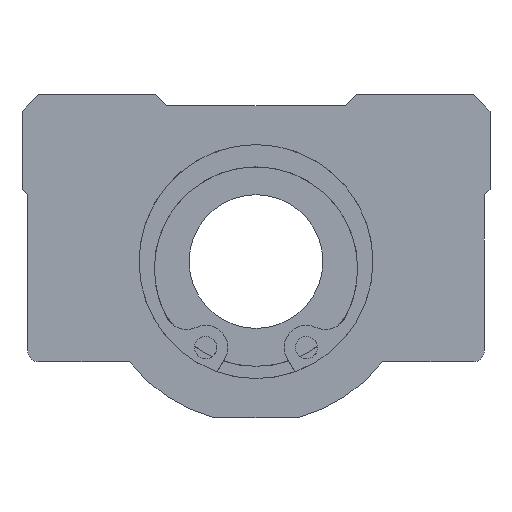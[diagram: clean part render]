
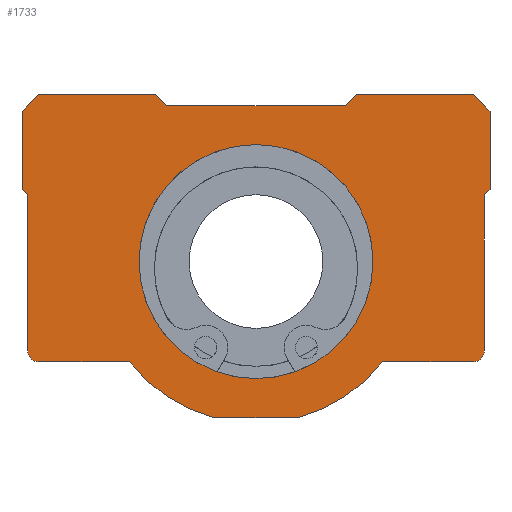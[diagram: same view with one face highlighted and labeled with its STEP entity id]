
A CAD part, left-side view. The second image highlights one B-rep face of the part: STEP entity #1733.
In plain terms, the highlighted planar face has unit normal (-1, 0, 0).
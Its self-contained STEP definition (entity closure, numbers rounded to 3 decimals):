
#1185=CARTESIAN_POINT('',(0.0,10.5,0.));
#1186=VERTEX_POINT('',#1185);
#1187=CARTESIAN_POINT('',(0.0,0.0,0.0));
#1188=DIRECTION('',(1.0,0.0,0.0));
#1189=DIRECTION('',(0.0,-1.0,0.0));
#1190=AXIS2_PLACEMENT_3D('',#1187,#1188,#1189);
#1191=CIRCLE('',#1190,10.5);
#1192=EDGE_CURVE('',#1186,#1186,#1191,.T.);
#1309=CARTESIAN_POINT('',(0.0,19.5,-9.));
#1310=VERTEX_POINT('',#1309);
#1317=CARTESIAN_POINT('',(0.0,20.5,-8.));
#1318=VERTEX_POINT('',#1317);
#1319=CARTESIAN_POINT('',(0.0,19.5,-8.));
#1320=DIRECTION('',(1.0,0.0,0.0));
#1321=DIRECTION('',(0.0,0.707,-0.707));
#1322=AXIS2_PLACEMENT_3D('',#1319,#1320,#1321);
#1323=CIRCLE('',#1322,1.0);
#1324=EDGE_CURVE('',#1310,#1318,#1323,.T.);
#1349=CARTESIAN_POINT('',(0.0,11.369,-9.));
#1350=VERTEX_POINT('',#1349);
#1357=CARTESIAN_POINT('',(0.0,11.369,-9.));
#1358=DIRECTION('',(0.0,1.0,0.0));
#1359=VECTOR('',#1358,8.131);
#1360=LINE('',#1357,#1359);
#1361=EDGE_CURVE('',#1350,#1310,#1360,.T.);
#1560=CARTESIAN_POINT('',(0.0,-20.5,-8.));
#1561=VERTEX_POINT('',#1560);
#1568=CARTESIAN_POINT('',(0.0,-19.5,-9.));
#1569=VERTEX_POINT('',#1568);
#1570=CARTESIAN_POINT('',(0.0,-19.5,-8.));
#1571=DIRECTION('',(1.0,0.0,0.0));
#1572=DIRECTION('',(0.0,-0.707,-0.707));
#1573=AXIS2_PLACEMENT_3D('',#1570,#1571,#1572);
#1574=CIRCLE('',#1573,1.);
#1575=EDGE_CURVE('',#1561,#1569,#1574,.T.);
#1586=CARTESIAN_POINT('',(0.0,0.,1.65));
#1587=DIRECTION('',(1.0,0.0,0.0));
#1588=DIRECTION('',(0.0,0.0,-1.0));
#1589=AXIS2_PLACEMENT_3D('',#1586,#1587,#1588);
#1590=PLANE('',#1589);
#1591=ORIENTED_EDGE('',*,*,#1324,.F.);
#1592=ORIENTED_EDGE('',*,*,#1361,.F.);
#1593=CARTESIAN_POINT('',(0.0,3.775,-14.));
#1594=VERTEX_POINT('',#1593);
#1595=CARTESIAN_POINT('',(0.0,0.0,0.0));
#1596=DIRECTION('',(1.0,0.0,0.0));
#1597=DIRECTION('',(0.0,0.26,-0.966));
#1598=AXIS2_PLACEMENT_3D('',#1595,#1596,#1597);
#1599=CIRCLE('',#1598,14.5);
#1600=EDGE_CURVE('',#1594,#1350,#1599,.T.);
#1601=ORIENTED_EDGE('',*,*,#1600,.F.);
#1602=CARTESIAN_POINT('',(0.0,-3.775,-14.));
#1603=VERTEX_POINT('',#1602);
#1604=CARTESIAN_POINT('',(0.0,-3.775,-14.));
#1605=DIRECTION('',(0.0,1.0,0.0));
#1606=VECTOR('',#1605,7.55);
#1607=LINE('',#1604,#1606);
#1608=EDGE_CURVE('',#1603,#1594,#1607,.T.);
#1609=ORIENTED_EDGE('',*,*,#1608,.F.);
#1610=CARTESIAN_POINT('',(0.0,-11.369,-9.));
#1611=VERTEX_POINT('',#1610);
#1612=CARTESIAN_POINT('',(0.0,0.0,0.0));
#1613=DIRECTION('',(1.0,0.0,0.0));
#1614=DIRECTION('',(0.0,0.26,-0.966));
#1615=AXIS2_PLACEMENT_3D('',#1612,#1613,#1614);
#1616=CIRCLE('',#1615,14.5);
#1617=EDGE_CURVE('',#1611,#1603,#1616,.T.);
#1618=ORIENTED_EDGE('',*,*,#1617,.F.);
#1619=CARTESIAN_POINT('',(0.0,-19.5,-9.));
#1620=DIRECTION('',(0.0,1.0,0.0));
#1621=VECTOR('',#1620,8.131);
#1622=LINE('',#1619,#1621);
#1623=EDGE_CURVE('',#1569,#1611,#1622,.T.);
#1624=ORIENTED_EDGE('',*,*,#1623,.F.);
#1625=ORIENTED_EDGE('',*,*,#1575,.F.);
#1626=CARTESIAN_POINT('',(0.0,-20.5,6.));
#1627=VERTEX_POINT('',#1626);
#1628=CARTESIAN_POINT('',(0.0,-20.5,6.));
#1629=DIRECTION('',(0.0,0.0,-1.0));
#1630=VECTOR('',#1629,14.0);
#1631=LINE('',#1628,#1630);
#1632=EDGE_CURVE('',#1627,#1561,#1631,.T.);
#1633=ORIENTED_EDGE('',*,*,#1632,.F.);
#1634=CARTESIAN_POINT('',(0.0,-21.,6.5));
#1635=VERTEX_POINT('',#1634);
#1636=CARTESIAN_POINT('',(0.0,-21.,6.5));
#1637=DIRECTION('',(0.0,0.707,-0.707));
#1638=VECTOR('',#1637,0.707);
#1639=LINE('',#1636,#1638);
#1640=EDGE_CURVE('',#1635,#1627,#1639,.T.);
#1641=ORIENTED_EDGE('',*,*,#1640,.F.);
#1642=CARTESIAN_POINT('',(0.0,-21.,13.5));
#1643=VERTEX_POINT('',#1642);
#1644=CARTESIAN_POINT('',(0.0,-21.,13.5));
#1645=DIRECTION('',(0.0,0.0,-1.0));
#1646=VECTOR('',#1645,7.);
#1647=LINE('',#1644,#1646);
#1648=EDGE_CURVE('',#1643,#1635,#1647,.T.);
#1649=ORIENTED_EDGE('',*,*,#1648,.F.);
#1650=CARTESIAN_POINT('',(0.0,-19.5,15.));
#1651=VERTEX_POINT('',#1650);
#1652=CARTESIAN_POINT('',(0.0,-19.5,15.));
#1653=DIRECTION('',(0.0,-0.707,-0.707));
#1654=VECTOR('',#1653,2.121);
#1655=LINE('',#1652,#1654);
#1656=EDGE_CURVE('',#1651,#1643,#1655,.T.);
#1657=ORIENTED_EDGE('',*,*,#1656,.F.);
#1658=CARTESIAN_POINT('',(0.0,-9.0,15.));
#1659=VERTEX_POINT('',#1658);
#1660=CARTESIAN_POINT('',(0.0,-9.0,15.));
#1661=DIRECTION('',(0.0,-1.0,0.0));
#1662=VECTOR('',#1661,10.5);
#1663=LINE('',#1660,#1662);
#1664=EDGE_CURVE('',#1659,#1651,#1663,.T.);
#1665=ORIENTED_EDGE('',*,*,#1664,.F.);
#1666=CARTESIAN_POINT('',(0.0,-8.,14.));
#1667=VERTEX_POINT('',#1666);
#1668=CARTESIAN_POINT('',(0.0,-8.,14.));
#1669=DIRECTION('',(0.0,-0.707,0.707));
#1670=VECTOR('',#1669,1.414);
#1671=LINE('',#1668,#1670);
#1672=EDGE_CURVE('',#1667,#1659,#1671,.T.);
#1673=ORIENTED_EDGE('',*,*,#1672,.F.);
#1674=CARTESIAN_POINT('',(0.0,8.,14.));
#1675=VERTEX_POINT('',#1674);
#1676=CARTESIAN_POINT('',(0.0,8.,14.));
#1677=DIRECTION('',(0.0,-1.0,0.0));
#1678=VECTOR('',#1677,16.);
#1679=LINE('',#1676,#1678);
#1680=EDGE_CURVE('',#1675,#1667,#1679,.T.);
#1681=ORIENTED_EDGE('',*,*,#1680,.F.);
#1682=CARTESIAN_POINT('',(0.0,9.0,15.));
#1683=VERTEX_POINT('',#1682);
#1684=CARTESIAN_POINT('',(0.0,9.0,15.));
#1685=DIRECTION('',(0.0,-0.707,-0.707));
#1686=VECTOR('',#1685,1.414);
#1687=LINE('',#1684,#1686);
#1688=EDGE_CURVE('',#1683,#1675,#1687,.T.);
#1689=ORIENTED_EDGE('',*,*,#1688,.F.);
#1690=CARTESIAN_POINT('',(0.0,19.5,15.));
#1691=VERTEX_POINT('',#1690);
#1692=CARTESIAN_POINT('',(0.0,19.5,15.));
#1693=DIRECTION('',(0.0,-1.0,0.0));
#1694=VECTOR('',#1693,10.5);
#1695=LINE('',#1692,#1694);
#1696=EDGE_CURVE('',#1691,#1683,#1695,.T.);
#1697=ORIENTED_EDGE('',*,*,#1696,.F.);
#1698=CARTESIAN_POINT('',(0.0,21.,13.5));
#1699=VERTEX_POINT('',#1698);
#1700=CARTESIAN_POINT('',(0.0,21.,13.5));
#1701=DIRECTION('',(0.0,-0.707,0.707));
#1702=VECTOR('',#1701,2.121);
#1703=LINE('',#1700,#1702);
#1704=EDGE_CURVE('',#1699,#1691,#1703,.T.);
#1705=ORIENTED_EDGE('',*,*,#1704,.F.);
#1706=CARTESIAN_POINT('',(0.0,21.,6.5));
#1707=VERTEX_POINT('',#1706);
#1708=CARTESIAN_POINT('',(0.0,21.,6.5));
#1709=DIRECTION('',(0.0,0.0,1.0));
#1710=VECTOR('',#1709,7.);
#1711=LINE('',#1708,#1710);
#1712=EDGE_CURVE('',#1707,#1699,#1711,.T.);
#1713=ORIENTED_EDGE('',*,*,#1712,.F.);
#1714=CARTESIAN_POINT('',(0.0,20.5,6.));
#1715=VERTEX_POINT('',#1714);
#1716=CARTESIAN_POINT('',(0.0,20.5,6.));
#1717=DIRECTION('',(0.0,0.707,0.707));
#1718=VECTOR('',#1717,0.707);
#1719=LINE('',#1716,#1718);
#1720=EDGE_CURVE('',#1715,#1707,#1719,.T.);
#1721=ORIENTED_EDGE('',*,*,#1720,.F.);
#1722=CARTESIAN_POINT('',(0.0,20.5,-8.));
#1723=DIRECTION('',(0.0,0.0,1.0));
#1724=VECTOR('',#1723,14.);
#1725=LINE('',#1722,#1724);
#1726=EDGE_CURVE('',#1318,#1715,#1725,.T.);
#1727=ORIENTED_EDGE('',*,*,#1726,.F.);
#1728=EDGE_LOOP('',(#1591,#1592,#1601,#1609,#1618,#1624,#1625,#1633,#1641,#1649,#1657,#1665,#1673,#1681,#1689,#1697,#1705,#1713,#1721,#1727));
#1729=FACE_OUTER_BOUND('',#1728,.T.);
#1730=ORIENTED_EDGE('',*,*,#1192,.T.);
#1731=EDGE_LOOP('',(#1730));
#1732=FACE_BOUND('',#1731,.T.);
#1733=ADVANCED_FACE('',(#1729,#1732),#1590,.F.);
